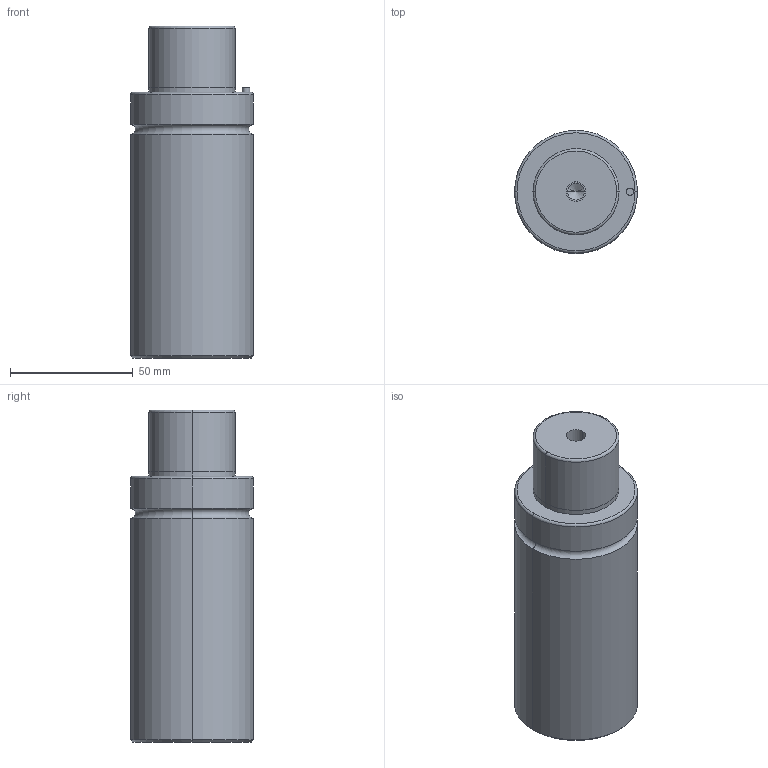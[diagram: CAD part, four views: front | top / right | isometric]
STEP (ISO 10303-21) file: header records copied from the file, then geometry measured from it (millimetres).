
FILE_DESCRIPTION(/* description */ (''),/* implementation_level */ '2;1');
FILE_NAME(/* name */ '3d_gsm50-25_03933_r00.stp',/* time_stamp */ '2011-01-10T14:15:15+09:00',/* author */ ('MISUMI'),/* organization */ (''),/* preprocessor_version */ 'ST-DEVELOPER v11',/* originating_system */ 'UGS - NX 5.0',/* authorisation */ '');
FILE_SCHEMA (('CONFIG_CONTROL_DESIGN'));
Length unit declared in the file: millimetre
Products named in the file (1): 3d_gsm50-25_03933_r00
Bounding box: 50 x 50 x 135 mm (x, y, z)
Volume: 234088.8 mm3; surface area: 25421.8 mm2
Topology: 1 solids, 1 shells, 50 faces, 106 edges, 60 vertices
Faces by surface type: cylinder 26, cone 10, plane 8, torus 6
Entity records: 1382 total; most frequent: DIRECTION 262, CARTESIAN_POINT 209, ORIENTED_EDGE 196, AXIS2_PLACEMENT_3D 113, EDGE_CURVE 98, CIRCLE 62, EDGE_LOOP 60, VERTEX_POINT 60
